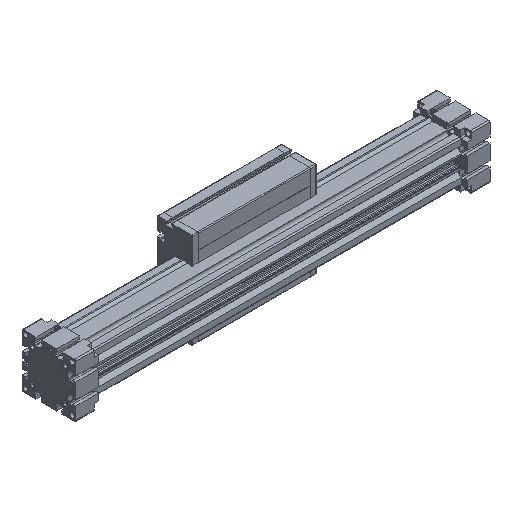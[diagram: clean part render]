
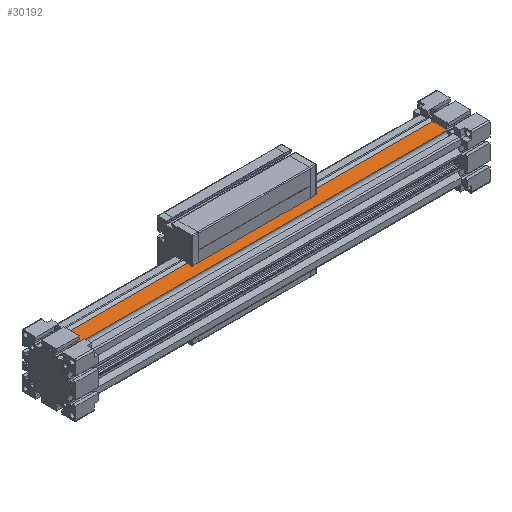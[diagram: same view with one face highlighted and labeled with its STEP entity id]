
A CAD part, isometric view. The second image highlights one B-rep face of the part: STEP entity #30192.
In plain terms, the highlighted planar face has unit normal (0, 0, 1) as drawn and (0, 0, -1) by its records, which use the part's own axes.
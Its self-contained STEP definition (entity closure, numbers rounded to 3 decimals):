
#94 = CARTESIAN_POINT ( 'NONE',  ( 890., -18.072, -50. ) ) ;
#995 = DIRECTION ( 'NONE',  ( -1., 0., 0. ) ) ;
#1458 = ORIENTED_EDGE ( 'NONE', *, *, #19565, .T. ) ;
#2804 = VERTEX_POINT ( 'NONE', #14248 ) ;
#3860 = ORIENTED_EDGE ( 'NONE', *, *, #14908, .F. ) ;
#4491 = CARTESIAN_POINT ( 'NONE',  ( 890., 0., -50. ) ) ;
#4590 = DIRECTION ( 'NONE',  ( 0., -1., 0. ) ) ;
#5008 = VERTEX_POINT ( 'NONE', #31319 ) ;
#5458 = AXIS2_PLACEMENT_3D ( 'NONE', #30405, #15784, #995 ) ;
#5836 = PLANE ( 'NONE',  #5458 ) ;
#9117 = CARTESIAN_POINT ( 'NONE',  ( 890., -18.072, -50. ) ) ;
#9126 = VECTOR ( 'NONE', #29506, 1000. ) ;
#9699 = LINE ( 'NONE', #4491, #21975 ) ;
#10087 = EDGE_CURVE ( 'NONE', #24716, #2804, #28652, .T. ) ;
#11952 = ORIENTED_EDGE ( 'NONE', *, *, #15635, .F. ) ;
#13777 = LINE ( 'NONE', #27568, #26796 ) ;
#14248 = CARTESIAN_POINT ( 'NONE',  ( 0., -18.072, -50. ) ) ;
#14908 = EDGE_CURVE ( 'NONE', #15516, #2804, #13777, .T. ) ;
#15265 = CARTESIAN_POINT ( 'NONE',  ( 0., 18.072, -50. ) ) ;
#15309 = DIRECTION ( 'NONE',  ( 0., -1., 0. ) ) ;
#15516 = VERTEX_POINT ( 'NONE', #15265 ) ;
#15635 = EDGE_CURVE ( 'NONE', #5008, #15516, #27106, .T. ) ;
#15784 = DIRECTION ( 'NONE',  ( 0., 0., -1. ) ) ;
#19565 = EDGE_CURVE ( 'NONE', #5008, #24716, #9699, .T. ) ;
#21975 = VECTOR ( 'NONE', #4590, 1000. ) ;
#22404 = EDGE_LOOP ( 'NONE', ( #3860, #11952, #1458, #26773 ) ) ;
#24716 = VERTEX_POINT ( 'NONE', #9117 ) ;
#24744 = DIRECTION ( 'NONE',  ( -1., 0., 0. ) ) ;
#26354 = VECTOR ( 'NONE', #24744, 1000. ) ;
#26571 = FACE_OUTER_BOUND ( 'NONE', #22404, .T. ) ;
#26773 = ORIENTED_EDGE ( 'NONE', *, *, #10087, .T. ) ;
#26796 = VECTOR ( 'NONE', #15309, 1000. ) ;
#27106 = LINE ( 'NONE', #29643, #26354 ) ;
#27568 = CARTESIAN_POINT ( 'NONE',  ( 0., 0., -50. ) ) ;
#28652 = LINE ( 'NONE', #94, #9126 ) ;
#29506 = DIRECTION ( 'NONE',  ( -1., 0., 0. ) ) ;
#29643 = CARTESIAN_POINT ( 'NONE',  ( 890., 18.072, -50. ) ) ;
#30192 = ADVANCED_FACE ( 'NONE', ( #26571 ), #5836, .T. ) ;
#30405 = CARTESIAN_POINT ( 'NONE',  ( 890., 0., -50. ) ) ;
#31319 = CARTESIAN_POINT ( 'NONE',  ( 890., 18.072, -50. ) ) ;
